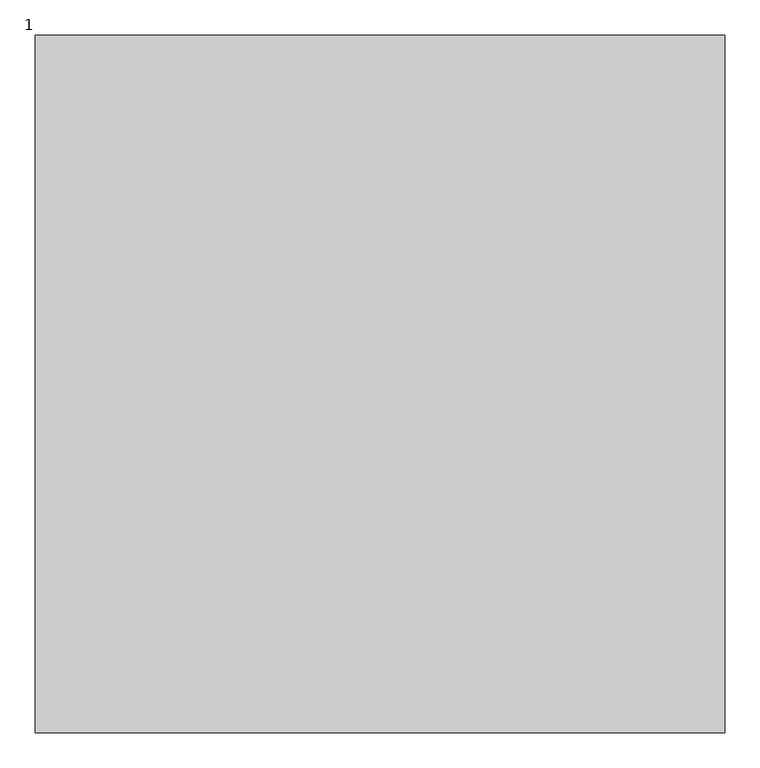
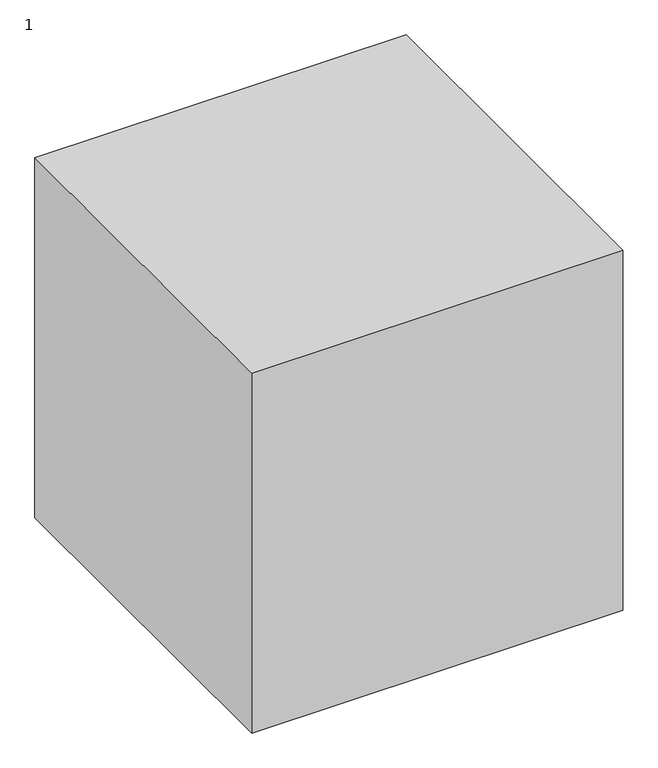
"""IFC4 building model written with IfcOpenShell, lengths in millimetres: proxy geometry, 1222112 : 1."""

from ifc_helpers import new_model, si_unit, origin, origin_with_axes, place, context, project, spatial, polyline, outline, extrude, source, transform, mapped, element, save


def proxy_1_ae793e1a(model_context):
    return source(origin(), model_context, "Body", "SweptSolid", [
        extrude(outline(polyline([(-2332.6088909, 7335.2294472), (-2332.6088909, 6349.2819077), (-3307.9756708, 6349.2819077), (-3307.9756708, 7335.2294472), (-2332.6088909, 7335.2294472)])), origin_with_axes(), (0.0, 0.0, 1.0), 1000.0),
    ])


if __name__ == "__main__":
    model = new_model("IFC4")
    model_context = context("Model", 3, world=origin())
    ifc_project = project(units=[si_unit("LENGTHUNIT", "METRE", prefix="MILLI")], contexts=[model_context])
    site = spatial("IfcSite", under=ifc_project)
    building = spatial("IfcBuilding", under=site)
    placement = place(None, origin())
    proxy_1_shape = proxy_1_ae793e1a(model_context)
    element("IfcBuildingElementProxy", 1, Name="1222112 : 1", ObjectType="1222112 : 1", at=placement, inside=building, context=model_context, shape_type="MappedRepresentation", body=[
        mapped(proxy_1_shape, transform((0.0, 0.0, 0.0), x_axis=(1.0, 0.0, 0.0), y_axis=(0.0, 1.0, 0.0), z_axis=(0.0, 0.0, 1.0))),
    ])
    save(model, "model.ifc")
